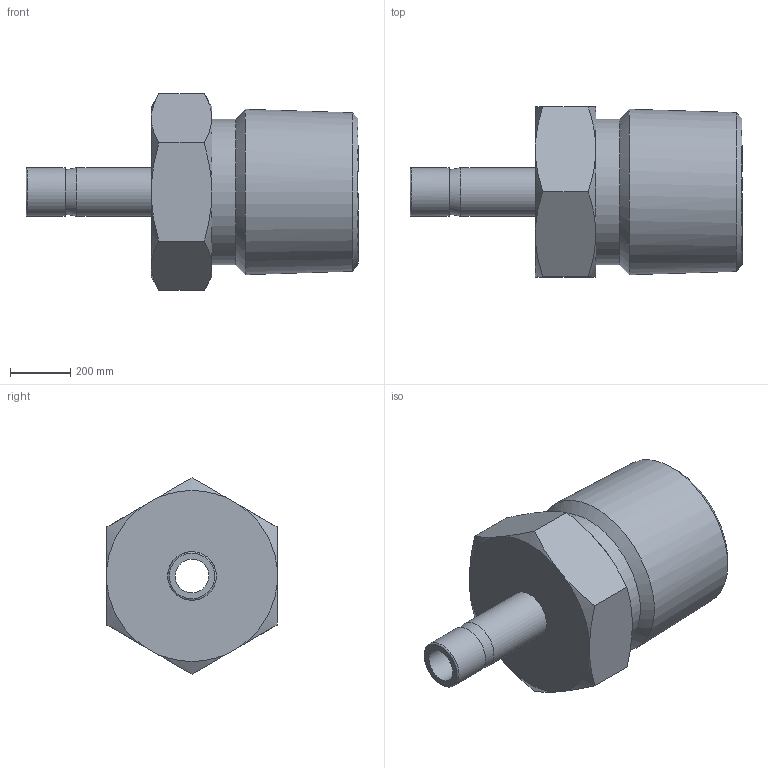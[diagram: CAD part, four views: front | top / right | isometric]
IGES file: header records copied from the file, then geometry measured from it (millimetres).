
Global section: file name: SMA-4-8N; native system: Autodesk Inventor 2016; preprocessor: unknown; author: DESIGNPC2; date: 20151221.092528; units: millimetre
Bounding box: 1102.36 x 564.51 x 651.85 mm (x, y, z)
Volume: 158532451.1 mm3; surface area: 2341656.5 mm2
Topology: 1 solids, 1 shells, 28 faces, 79 edges, 56 vertices
Faces by surface type: bspline 28
